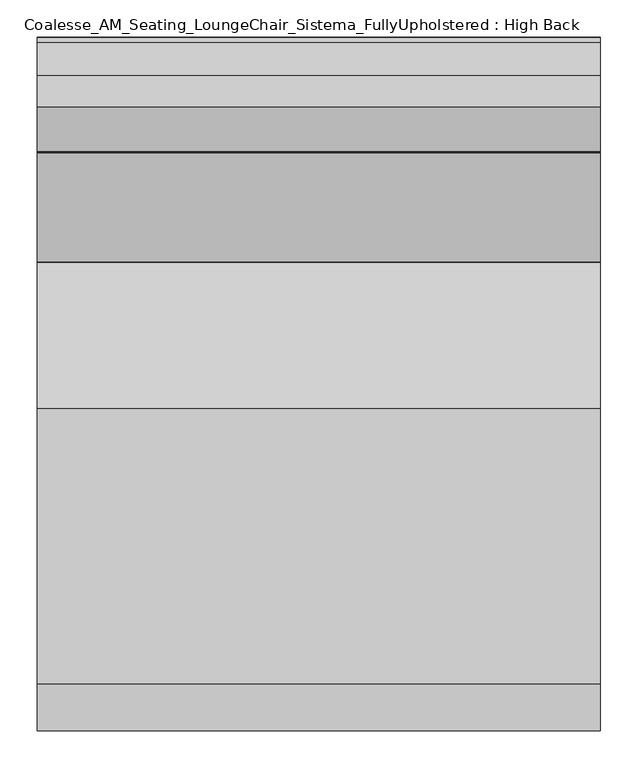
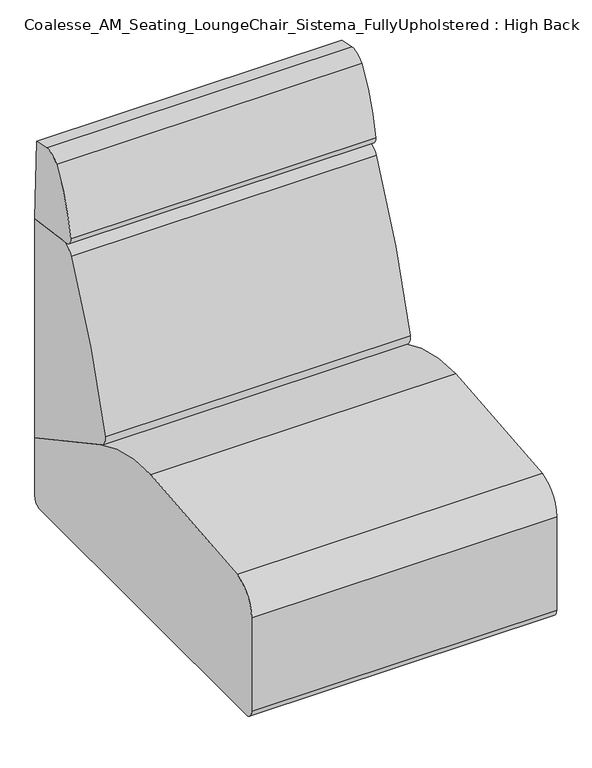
"""IFC4 building model written with IfcOpenShell, lengths in millimetres: furniture geometry, Coalesse_AM_Seating_LoungeChair_Sistema_FullyUpholstered : High Back."""

from ifc_helpers import new_model, si_unit, point, frame, frame_2d, origin, place, context, project, spatial, polyline, circle_curve, ellipse_curve, trimmed, segment, composite_curve, outline, extrude, source, transform, mapped, element, save
from ifc_brep_helpers import plane_surface, cylinder_surface, revolved_surface, advanced_brep


def coalesse_am_seating_loungechair_sistema_fullyupholstered_6787f364(model_context):
    return source(origin(), model_context, "Body", "SolidModel", [
        advanced_brep(
        [(-269.1276038, 379.5141881, 32.0111214), (-305.4012134, 379.5141881, 32.0111214), (-305.4012134, 379.5141881, 16.5557542), (-269.1276038, 379.5141881, 16.5557542), (-306.6948939, 379.5141881, 14.0167632), (-267.8339233, 379.5141881, 14.0167632), (-311.0668802, 379.5141881, 10.8824382), (-263.4619371, 379.5141881, 10.8824382), (-312.2530965, 379.5141881, 8.4680454), (-262.2757207, 379.5141881, 8.4680454), (-312.2530965, 379.5141881, 3.1081764), (-262.2757207, 379.5141881, 3.1081764), (-308.6567219, 379.5141881, 0.0), (-265.8720953, 379.5141881, 0.0), (-287.2644086, 379.5141881, 0.0), (-287.2644086, 379.5141881, 34.4679682), (-294.3791876, 379.5141881, 34.4679682), (-280.1496296, 379.5141881, 34.4679682), (-294.3791876, 379.5141881, 32.0111214), (-280.1496296, 379.5141881, 32.0111214)],
        [
            (0, 1, circle_curve(frame((-287.2644086, 379.5141881, 32.0111214), z_axis=(0.0, 0.0, -1.0), x_axis=(-1.0, 0.0, 0.0)), 18.1368048)),
            (1, 2),
            (2, 3, circle_curve(frame((-287.2644086, 379.5141881, 16.5557542), z_axis=(0.0, 0.0, 1.0), x_axis=(-1.0, 0.0, 0.0)), 18.1368048)),
            (3, 0),
            (1, 0, circle_curve(frame((-287.2644086, 379.5141881, 32.0111214), z_axis=(0.0, 0.0, -1.0), x_axis=(-1.0, 0.0, 0.0)), 18.1368048)),
            (3, 2, circle_curve(frame((-287.2644086, 379.5141881, 16.5557542), z_axis=(0.0, 0.0, 1.0), x_axis=(-1.0, 0.0, 0.0)), 18.1368048)),
            (2, 4),
            (4, 5, circle_curve(frame((-287.2644086, 379.5141881, 14.0167632), z_axis=(0.0, 0.0, 1.0), x_axis=(-1.0, 0.0, 0.0)), 19.4304853)),
            (5, 3),
            (5, 4, circle_curve(frame((-287.2644086, 379.5141881, 14.0167632), z_axis=(0.0, 0.0, 1.0), x_axis=(-1.0, 0.0, 0.0)), 19.4304853)),
            (4, 6, circle_curve(frame((-264.7129236, 379.5141881, -49.1591113), z_axis=(0.0, -1.0, 0.0), x_axis=(1.0, 0.0, 0.0)), 75.8529957)),
            (6, 7, circle_curve(frame((-287.2644086, 379.5141881, 10.8824382), z_axis=(0.0, 0.0, 1.0), x_axis=(-1.0, 0.0, 0.0)), 23.8024715)),
            (7, 5, circle_curve(frame((-309.8158936, 379.5141881, -49.1591113), z_axis=(0.0, -1.0, 0.0), x_axis=(-1.0, 0.0, 0.0)), 75.8529957)),
            (7, 6, circle_curve(frame((-287.2644086, 379.5141881, 10.8824382), z_axis=(0.0, 0.0, 1.0), x_axis=(-1.0, 0.0, 0.0)), 23.8024715)),
            (6, 8, circle_curve(frame((-309.2028933, 379.5141881, 8.4680454), z_axis=(0.0, -1.0, 0.0), x_axis=(1.0, 0.0, 0.0)), 3.0502032)),
            (8, 9, circle_curve(frame((-287.2644086, 379.5141881, 8.4680454), z_axis=(0.0, 0.0, 1.0), x_axis=(-1.0, 0.0, 0.0)), 24.9886879)),
            (9, 7, circle_curve(frame((-265.3259239, 379.5141881, 8.4680454), z_axis=(0.0, -1.0, 0.0), x_axis=(-1.0, 0.0, 0.0)), 3.0502032)),
            (9, 8, circle_curve(frame((-287.2644086, 379.5141881, 8.4680454), z_axis=(0.0, 0.0, 1.0), x_axis=(-1.0, 0.0, 0.0)), 24.9886879)),
            (8, 10),
            (10, 11, circle_curve(frame((-287.2644086, 379.5141881, 3.1081764), z_axis=(0.0, 0.0, 1.0), x_axis=(-1.0, 0.0, 0.0)), 24.9886879)),
            (11, 9),
            (11, 10, circle_curve(frame((-287.2644086, 379.5141881, 3.1081764), z_axis=(0.0, 0.0, 1.0), x_axis=(-1.0, 0.0, 0.0)), 24.9886879)),
            (10, 12, circle_curve(frame((-308.6567219, 379.5141881, 3.634715), z_axis=(0.0, -1.0, 0.0), x_axis=(1.0, 0.0, 0.0)), 3.634715)),
            (12, 13, circle_curve(frame((-287.2644086, 379.5141881, 0.0), z_axis=(0.0, 0.0, 1.0), x_axis=(-1.0, 0.0, 0.0)), 21.3923133)),
            (13, 11, circle_curve(frame((-265.8720953, 379.5141881, 3.634715), z_axis=(0.0, -1.0, 0.0), x_axis=(-1.0, 0.0, 0.0)), 3.634715)),
            (13, 12, circle_curve(frame((-287.2644086, 379.5141881, 0.0), z_axis=(0.0, 0.0, 1.0), x_axis=(-1.0, 0.0, 0.0)), 21.3923133)),
            (12, 14),
            (14, 13),
            (15, 16),
            (16, 17, circle_curve(frame((-287.2644086, 379.5141881, 34.4679682), z_axis=(0.0, 0.0, 1.0), x_axis=(-1.0, 0.0, 0.0)), 7.114779)),
            (17, 15),
            (17, 16, circle_curve(frame((-287.2644086, 379.5141881, 34.4679682), z_axis=(0.0, 0.0, 1.0), x_axis=(-1.0, 0.0, 0.0)), 7.114779)),
            (16, 18),
            (18, 19, circle_curve(frame((-287.2644086, 379.5141881, 32.0111214), z_axis=(0.0, 0.0, 1.0), x_axis=(-1.0, 0.0, 0.0)), 7.114779)),
            (19, 17),
            (19, 18, circle_curve(frame((-287.2644086, 379.5141881, 32.0111214), z_axis=(0.0, 0.0, 1.0), x_axis=(-1.0, 0.0, 0.0)), 7.114779)),
            (18, 1),
            (0, 19),
        ],
        [
            cylinder_surface(frame((-287.2644086, 379.5141881, 22.0491407), z_axis=(0.0, 0.0, 1.0), x_axis=(-1.0, 0.0, 0.0)), 18.1368048),
            revolved_surface(polyline([(-306.6948939, 379.5141881, 14.0167632), (-305.4012134, 379.5141881, 16.5557542)]), (-287.2644086, 379.5141881, 22.0491407), (0.0, 0.0, 1.0)),
            revolved_surface(trimmed(ellipse_curve(frame((-264.7129236, 379.5141881, -49.1591113), z_axis=(0.0, 1.0, 0.0), x_axis=(1.0, 0.0, 0.0)), 75.8529957, 75.8529957), [point((-311.0668802, 379.5141881, 10.8824382))], [point((-306.6948939, 379.5141881, 14.0167632))], True, "CARTESIAN"), (-287.2644086, 379.5141881, 22.0491407), (0.0, 0.0, 1.0)),
            revolved_surface(trimmed(ellipse_curve(frame((-309.2028933, 379.5141881, 8.4680454), z_axis=(0.0, 1.0, 0.0), x_axis=(1.0, 0.0, 0.0)), 3.0502032, 3.0502032), [point((-312.2530965, 379.5141881, 8.4680454))], [point((-311.0668802, 379.5141881, 10.8824382))], True, "CARTESIAN"), (-287.2644086, 379.5141881, 22.0491407), (0.0, 0.0, 1.0)),
            cylinder_surface(frame((-287.2644086, 379.5141881, 22.0491407), z_axis=(0.0, 0.0, 1.0), x_axis=(-1.0, 0.0, 0.0)), 24.9886879),
            revolved_surface(trimmed(ellipse_curve(frame((-308.6567219, 379.5141881, 3.634715), z_axis=(0.0, 1.0, 0.0), x_axis=(1.0, 0.0, 0.0)), 3.634715, 3.634715), [point((-308.6567219, 379.5141881, 0.0))], [point((-312.2530965, 379.5141881, 3.1081764))], True, "CARTESIAN"), (-287.2644086, 379.5141881, 22.0491407), (0.0, 0.0, 1.0)),
            plane_surface(frame((-287.2644086, 379.5141881, 0.0), z_axis=(0.0, 0.0, -1.0), x_axis=(-1.0, 0.0, 0.0))),
            plane_surface(frame((-287.2644086, 379.5141881, 34.4679682), z_axis=(0.0, 0.0, 1.0), x_axis=(-1.0, 0.0, 0.0))),
            cylinder_surface(frame((-287.2644086, 379.5141881, 22.0491407), z_axis=(0.0, 0.0, 1.0), x_axis=(-1.0, 0.0, 0.0)), 7.114779),
            plane_surface(frame((-287.2644086, 379.5141881, 32.0111214), z_axis=(0.0, 0.0, 1.0), x_axis=(-1.0, 0.0, 0.0))),
        ],
        [
            (0, [[1, 2, 3, 4]]),
            (0, [[5, -4, 6, -2]]),
            (1, [[-3, 7, 8, 9]]),
            (1, [[-6, -9, 10, -7]]),
            (2, [[-8, 11, 12, 13]]),
            (2, [[-10, -13, 14, -11]]),
            (3, [[-12, 15, 16, 17]]),
            (3, [[-14, -17, 18, -15]]),
            (4, [[-16, 19, 20, 21]]),
            (4, [[-18, -21, 22, -19]]),
            (5, [[-20, 23, 24, 25]]),
            (5, [[-22, -25, 26, -23]]),
            (6, [[-24, 27, 28]]),
            (6, [[-26, -28, -27]]),
            (7, [[29, 30, 31]]),
            (7, [[-31, 32, -29]]),
            (8, [[-30, 33, 34, 35]]),
            (8, [[-32, -35, 36, -33]]),
            (9, [[-34, 37, -1, 38]]),
            (9, [[-36, -38, -5, -37]]),
        ],
    ),
        advanced_brep(
        [(269.1276038, 379.5141881, 16.5557542), (305.4012134, 379.5141881, 16.5557542), (305.4012134, 379.5141881, 32.0111214), (269.1276038, 379.5141881, 32.0111214), (267.8339233, 379.5141881, 14.0167632), (306.6948939, 379.5141881, 14.0167632), (263.4619371, 379.5141881, 10.8824382), (311.0668802, 379.5141881, 10.8824382), (262.2757207, 379.5141881, 8.4680454), (312.2530965, 379.5141881, 8.4680454), (262.2757207, 379.5141881, 3.1081764), (312.2530965, 379.5141881, 3.1081764), (265.8720953, 379.5141881, 0.0), (308.6567219, 379.5141881, 0.0), (287.2644086, 379.5141881, 0.0), (280.1496296, 379.5141881, 34.4679682), (294.3791876, 379.5141881, 34.4679682), (287.2644086, 379.5141881, 34.4679682), (280.1496296, 379.5141881, 32.0111214), (294.3791876, 379.5141881, 32.0111214)],
        [
            (0, 1, circle_curve(frame((287.2644086, 379.5141881, 16.5557542), z_axis=(0.0, 0.0, 1.0), x_axis=(1.0, 0.0, 0.0)), 18.1368048)),
            (1, 2),
            (2, 3, circle_curve(frame((287.2644086, 379.5141881, 32.0111214), z_axis=(0.0, 0.0, -1.0), x_axis=(1.0, 0.0, 0.0)), 18.1368048)),
            (3, 0),
            (1, 0, circle_curve(frame((287.2644086, 379.5141881, 16.5557542), z_axis=(0.0, 0.0, 1.0), x_axis=(1.0, 0.0, 0.0)), 18.1368048)),
            (3, 2, circle_curve(frame((287.2644086, 379.5141881, 32.0111214), z_axis=(0.0, 0.0, -1.0), x_axis=(1.0, 0.0, 0.0)), 18.1368048)),
            (4, 5, circle_curve(frame((287.2644086, 379.5141881, 14.0167632), z_axis=(0.0, 0.0, 1.0), x_axis=(1.0, 0.0, 0.0)), 19.4304853)),
            (5, 1),
            (0, 4),
            (5, 4, circle_curve(frame((287.2644086, 379.5141881, 14.0167632), z_axis=(0.0, 0.0, 1.0), x_axis=(1.0, 0.0, 0.0)), 19.4304853)),
            (6, 7, circle_curve(frame((287.2644086, 379.5141881, 10.8824382), z_axis=(0.0, 0.0, 1.0), x_axis=(1.0, 0.0, 0.0)), 23.8024715)),
            (7, 5, circle_curve(frame((264.7129236, 379.5141881, -49.1591113), z_axis=(0.0, -1.0, 0.0), x_axis=(-1.0, 0.0, 0.0)), 75.8529957)),
            (4, 6, circle_curve(frame((309.8158936, 379.5141881, -49.1591113), z_axis=(0.0, -1.0, 0.0), x_axis=(1.0, 0.0, 0.0)), 75.8529957)),
            (7, 6, circle_curve(frame((287.2644086, 379.5141881, 10.8824382), z_axis=(0.0, 0.0, 1.0), x_axis=(1.0, 0.0, 0.0)), 23.8024715)),
            (8, 9, circle_curve(frame((287.2644086, 379.5141881, 8.4680454), z_axis=(0.0, 0.0, 1.0), x_axis=(1.0, 0.0, 0.0)), 24.9886879)),
            (9, 7, circle_curve(frame((309.2028933, 379.5141881, 8.4680454), z_axis=(0.0, -1.0, 0.0), x_axis=(-1.0, 0.0, 0.0)), 3.0502032)),
            (6, 8, circle_curve(frame((265.3259239, 379.5141881, 8.4680454), z_axis=(0.0, -1.0, 0.0), x_axis=(1.0, 0.0, 0.0)), 3.0502032)),
            (9, 8, circle_curve(frame((287.2644086, 379.5141881, 8.4680454), z_axis=(0.0, 0.0, 1.0), x_axis=(1.0, 0.0, 0.0)), 24.9886879)),
            (10, 11, circle_curve(frame((287.2644086, 379.5141881, 3.1081764), z_axis=(0.0, 0.0, 1.0), x_axis=(1.0, 0.0, 0.0)), 24.9886879)),
            (11, 9),
            (8, 10),
            (11, 10, circle_curve(frame((287.2644086, 379.5141881, 3.1081764), z_axis=(0.0, 0.0, 1.0), x_axis=(1.0, 0.0, 0.0)), 24.9886879)),
            (12, 13, circle_curve(frame((287.2644086, 379.5141881, 0.0), z_axis=(0.0, 0.0, 1.0), x_axis=(1.0, 0.0, 0.0)), 21.3923133)),
            (13, 11, circle_curve(frame((308.6567219, 379.5141881, 3.634715), z_axis=(0.0, -1.0, 0.0), x_axis=(-1.0, 0.0, 0.0)), 3.634715)),
            (10, 12, circle_curve(frame((265.8720953, 379.5141881, 3.634715), z_axis=(0.0, -1.0, 0.0), x_axis=(1.0, 0.0, 0.0)), 3.634715)),
            (13, 12, circle_curve(frame((287.2644086, 379.5141881, 0.0), z_axis=(0.0, 0.0, 1.0), x_axis=(1.0, 0.0, 0.0)), 21.3923133)),
            (14, 13),
            (12, 14),
            (15, 16, circle_curve(frame((287.2644086, 379.5141881, 34.4679682), z_axis=(0.0, 0.0, 1.0), x_axis=(1.0, 0.0, 0.0)), 7.114779)),
            (16, 17),
            (17, 15),
            (16, 15, circle_curve(frame((287.2644086, 379.5141881, 34.4679682), z_axis=(0.0, 0.0, 1.0), x_axis=(1.0, 0.0, 0.0)), 7.114779)),
            (18, 19, circle_curve(frame((287.2644086, 379.5141881, 32.0111214), z_axis=(0.0, 0.0, 1.0), x_axis=(1.0, 0.0, 0.0)), 7.114779)),
            (19, 16),
            (15, 18),
            (19, 18, circle_curve(frame((287.2644086, 379.5141881, 32.0111214), z_axis=(0.0, 0.0, 1.0), x_axis=(1.0, 0.0, 0.0)), 7.114779)),
            (2, 19),
            (18, 3),
        ],
        [
            cylinder_surface(frame((287.2644086, 379.5141881, 22.0491407), z_axis=(0.0, 0.0, -1.0), x_axis=(1.0, 0.0, 0.0)), 18.1368048),
            revolved_surface(polyline([(305.4012134, 379.5141881, 16.5557542), (306.6948939, 379.5141881, 14.0167632)]), (287.2644086, 379.5141881, 22.0491407), (0.0, 0.0, -1.0)),
            revolved_surface(trimmed(ellipse_curve(frame((264.7129236, 379.5141881, -49.1591113), z_axis=(0.0, 1.0, 0.0), x_axis=(-1.0, 0.0, 0.0)), 75.8529957, 75.8529957), [point((306.6948939, 379.5141881, 14.0167632))], [point((311.0668802, 379.5141881, 10.8824382))], True, "CARTESIAN"), (287.2644086, 379.5141881, 22.0491407), (0.0, 0.0, -1.0)),
            revolved_surface(trimmed(ellipse_curve(frame((309.2028933, 379.5141881, 8.4680454), z_axis=(0.0, 1.0, 0.0), x_axis=(-1.0, 0.0, 0.0)), 3.0502032, 3.0502032), [point((311.0668802, 379.5141881, 10.8824382))], [point((312.2530965, 379.5141881, 8.4680454))], True, "CARTESIAN"), (287.2644086, 379.5141881, 22.0491407), (0.0, 0.0, -1.0)),
            cylinder_surface(frame((287.2644086, 379.5141881, 22.0491407), z_axis=(0.0, 0.0, -1.0), x_axis=(1.0, 0.0, 0.0)), 24.9886879),
            revolved_surface(trimmed(ellipse_curve(frame((308.6567219, 379.5141881, 3.634715), z_axis=(0.0, 1.0, 0.0), x_axis=(-1.0, 0.0, 0.0)), 3.634715, 3.634715), [point((312.2530965, 379.5141881, 3.1081764))], [point((308.6567219, 379.5141881, 0.0))], True, "CARTESIAN"), (287.2644086, 379.5141881, 22.0491407), (0.0, 0.0, -1.0)),
            plane_surface(frame((287.2644086, 379.5141881, 0.0), z_axis=(0.0, 0.0, -1.0), x_axis=(1.0, 0.0, 0.0))),
            plane_surface(frame((287.2644086, 379.5141881, 34.4679682), z_axis=(0.0, 0.0, 1.0), x_axis=(1.0, 0.0, 0.0))),
            cylinder_surface(frame((287.2644086, 379.5141881, 22.0491407), z_axis=(0.0, 0.0, -1.0), x_axis=(1.0, 0.0, 0.0)), 7.114779),
            plane_surface(frame((287.2644086, 379.5141881, 32.0111214), z_axis=(0.0, 0.0, 1.0), x_axis=(1.0, 0.0, 0.0))),
        ],
        [
            (0, [[1, 2, 3, 4]]),
            (0, [[5, -4, 6, -2]]),
            (1, [[7, 8, -1, 9]]),
            (1, [[10, -9, -5, -8]]),
            (2, [[11, 12, -7, 13]]),
            (2, [[14, -13, -10, -12]]),
            (3, [[15, 16, -11, 17]]),
            (3, [[18, -17, -14, -16]]),
            (4, [[19, 20, -15, 21]]),
            (4, [[22, -21, -18, -20]]),
            (5, [[23, 24, -19, 25]]),
            (5, [[26, -25, -22, -24]]),
            (6, [[27, -23, 28]]),
            (6, [[-28, -26, -27]]),
            (7, [[29, 30, 31]]),
            (7, [[32, -31, -30]]),
            (8, [[33, 34, -29, 35]]),
            (8, [[36, -35, -32, -34]]),
            (9, [[-3, 37, -33, 38]]),
            (9, [[-6, -38, -36, -37]]),
        ],
    ),
        advanced_brep(
        [(269.1276038, -379.5141881, 32.0111214), (305.4012134, -379.5141881, 32.0111214), (305.4012134, -379.5141881, 16.5557542), (269.1276038, -379.5141881, 16.5557542), (306.6948939, -379.5141881, 14.0167632), (267.8339233, -379.5141881, 14.0167632), (311.0668802, -379.5141881, 10.8824382), (263.4619371, -379.5141881, 10.8824382), (312.2530965, -379.5141881, 8.4680454), (262.2757207, -379.5141881, 8.4680454), (312.2530965, -379.5141881, 3.1081764), (262.2757207, -379.5141881, 3.1081764), (308.6567219, -379.5141881, 0.0), (265.8720953, -379.5141881, 0.0), (287.2644086, -379.5141881, 0.0), (287.2644086, -379.5141881, 34.4679682), (294.3791876, -379.5141881, 34.4679682), (280.1496296, -379.5141881, 34.4679682), (294.3791876, -379.5141881, 32.0111214), (280.1496296, -379.5141881, 32.0111214)],
        [
            (0, 1, circle_curve(frame((287.2644086, -379.5141881, 32.0111214), z_axis=(0.0, 0.0, -1.0), x_axis=(1.0, 0.0, 0.0)), 18.1368048)),
            (1, 2),
            (2, 3, circle_curve(frame((287.2644086, -379.5141881, 16.5557542), z_axis=(0.0, 0.0, 1.0), x_axis=(1.0, 0.0, 0.0)), 18.1368048)),
            (3, 0),
            (1, 0, circle_curve(frame((287.2644086, -379.5141881, 32.0111214), z_axis=(0.0, 0.0, -1.0), x_axis=(1.0, 0.0, 0.0)), 18.1368048)),
            (3, 2, circle_curve(frame((287.2644086, -379.5141881, 16.5557542), z_axis=(0.0, 0.0, 1.0), x_axis=(1.0, 0.0, 0.0)), 18.1368048)),
            (2, 4),
            (4, 5, circle_curve(frame((287.2644086, -379.5141881, 14.0167632), z_axis=(0.0, 0.0, 1.0), x_axis=(1.0, 0.0, 0.0)), 19.4304853)),
            (5, 3),
            (5, 4, circle_curve(frame((287.2644086, -379.5141881, 14.0167632), z_axis=(0.0, 0.0, 1.0), x_axis=(1.0, 0.0, 0.0)), 19.4304853)),
            (4, 6, circle_curve(frame((264.7129236, -379.5141881, -49.1591113), z_axis=(0.0, 1.0, 0.0), x_axis=(-1.0, 0.0, 0.0)), 75.8529957)),
            (6, 7, circle_curve(frame((287.2644086, -379.5141881, 10.8824382), z_axis=(0.0, 0.0, 1.0), x_axis=(1.0, 0.0, 0.0)), 23.8024715)),
            (7, 5, circle_curve(frame((309.8158936, -379.5141881, -49.1591113), z_axis=(0.0, 1.0, 0.0), x_axis=(1.0, 0.0, 0.0)), 75.8529957)),
            (7, 6, circle_curve(frame((287.2644086, -379.5141881, 10.8824382), z_axis=(0.0, 0.0, 1.0), x_axis=(1.0, 0.0, 0.0)), 23.8024715)),
            (6, 8, circle_curve(frame((309.2028933, -379.5141881, 8.4680454), z_axis=(0.0, 1.0, 0.0), x_axis=(-1.0, 0.0, 0.0)), 3.0502032)),
            (8, 9, circle_curve(frame((287.2644086, -379.5141881, 8.4680454), z_axis=(0.0, 0.0, 1.0), x_axis=(1.0, 0.0, 0.0)), 24.9886879)),
            (9, 7, circle_curve(frame((265.3259239, -379.5141881, 8.4680454), z_axis=(0.0, 1.0, 0.0), x_axis=(1.0, 0.0, 0.0)), 3.0502032)),
            (9, 8, circle_curve(frame((287.2644086, -379.5141881, 8.4680454), z_axis=(0.0, 0.0, 1.0), x_axis=(1.0, 0.0, 0.0)), 24.9886879)),
            (8, 10),
            (10, 11, circle_curve(frame((287.2644086, -379.5141881, 3.1081764), z_axis=(0.0, 0.0, 1.0), x_axis=(1.0, 0.0, 0.0)), 24.9886879)),
            (11, 9),
            (11, 10, circle_curve(frame((287.2644086, -379.5141881, 3.1081764), z_axis=(0.0, 0.0, 1.0), x_axis=(1.0, 0.0, 0.0)), 24.9886879)),
            (10, 12, circle_curve(frame((308.6567219, -379.5141881, 3.634715), z_axis=(0.0, 1.0, 0.0), x_axis=(-1.0, 0.0, 0.0)), 3.634715)),
            (12, 13, circle_curve(frame((287.2644086, -379.5141881, 0.0), z_axis=(0.0, 0.0, 1.0), x_axis=(1.0, 0.0, 0.0)), 21.3923133)),
            (13, 11, circle_curve(frame((265.8720953, -379.5141881, 3.634715), z_axis=(0.0, 1.0, 0.0), x_axis=(1.0, 0.0, 0.0)), 3.634715)),
            (13, 12, circle_curve(frame((287.2644086, -379.5141881, 0.0), z_axis=(0.0, 0.0, 1.0), x_axis=(1.0, 0.0, 0.0)), 21.3923133)),
            (12, 14),
            (14, 13),
            (15, 16),
            (16, 17, circle_curve(frame((287.2644086, -379.5141881, 34.4679682), z_axis=(0.0, 0.0, 1.0), x_axis=(1.0, 0.0, 0.0)), 7.114779)),
            (17, 15),
            (17, 16, circle_curve(frame((287.2644086, -379.5141881, 34.4679682), z_axis=(0.0, 0.0, 1.0), x_axis=(1.0, 0.0, 0.0)), 7.114779)),
            (16, 18),
            (18, 19, circle_curve(frame((287.2644086, -379.5141881, 32.0111214), z_axis=(0.0, 0.0, 1.0), x_axis=(1.0, 0.0, 0.0)), 7.114779)),
            (19, 17),
            (19, 18, circle_curve(frame((287.2644086, -379.5141881, 32.0111214), z_axis=(0.0, 0.0, 1.0), x_axis=(1.0, 0.0, 0.0)), 7.114779)),
            (18, 1),
            (0, 19),
        ],
        [
            cylinder_surface(frame((287.2644086, -379.5141881, 22.0491407), z_axis=(0.0, 0.0, 1.0), x_axis=(1.0, 0.0, 0.0)), 18.1368048),
            revolved_surface(polyline([(306.6948939, -379.5141881, 14.0167632), (305.4012134, -379.5141881, 16.5557542)]), (287.2644086, -379.5141881, 22.0491407), (0.0, 0.0, 1.0)),
            revolved_surface(trimmed(ellipse_curve(frame((264.7129236, -379.5141881, -49.1591113), z_axis=(0.0, -1.0, 0.0), x_axis=(-1.0, 0.0, 0.0)), 75.8529957, 75.8529957), [point((311.0668802, -379.5141881, 10.8824382))], [point((306.6948939, -379.5141881, 14.0167632))], True, "CARTESIAN"), (287.2644086, -379.5141881, 22.0491407), (0.0, 0.0, 1.0)),
            revolved_surface(trimmed(ellipse_curve(frame((309.2028933, -379.5141881, 8.4680454), z_axis=(0.0, -1.0, 0.0), x_axis=(-1.0, 0.0, 0.0)), 3.0502032, 3.0502032), [point((312.2530965, -379.5141881, 8.4680454))], [point((311.0668802, -379.5141881, 10.8824382))], True, "CARTESIAN"), (287.2644086, -379.5141881, 22.0491407), (0.0, 0.0, 1.0)),
            cylinder_surface(frame((287.2644086, -379.5141881, 22.0491407), z_axis=(0.0, 0.0, 1.0), x_axis=(1.0, 0.0, 0.0)), 24.9886879),
            revolved_surface(trimmed(ellipse_curve(frame((308.6567219, -379.5141881, 3.634715), z_axis=(0.0, -1.0, 0.0), x_axis=(-1.0, 0.0, 0.0)), 3.634715, 3.634715), [point((308.6567219, -379.5141881, 0.0))], [point((312.2530965, -379.5141881, 3.1081764))], True, "CARTESIAN"), (287.2644086, -379.5141881, 22.0491407), (0.0, 0.0, 1.0)),
            plane_surface(frame((287.2644086, -379.5141881, 0.0), z_axis=(0.0, 0.0, -1.0), x_axis=(1.0, 0.0, 0.0))),
            plane_surface(frame((287.2644086, -379.5141881, 34.4679682), z_axis=(0.0, 0.0, 1.0), x_axis=(1.0, 0.0, 0.0))),
            cylinder_surface(frame((287.2644086, -379.5141881, 22.0491407), z_axis=(0.0, 0.0, 1.0), x_axis=(1.0, 0.0, 0.0)), 7.114779),
            plane_surface(frame((287.2644086, -379.5141881, 32.0111214), z_axis=(0.0, 0.0, 1.0), x_axis=(1.0, 0.0, 0.0))),
        ],
        [
            (0, [[1, 2, 3, 4]]),
            (0, [[5, -4, 6, -2]]),
            (1, [[-3, 7, 8, 9]]),
            (1, [[-6, -9, 10, -7]]),
            (2, [[-8, 11, 12, 13]]),
            (2, [[-10, -13, 14, -11]]),
            (3, [[-12, 15, 16, 17]]),
            (3, [[-14, -17, 18, -15]]),
            (4, [[-16, 19, 20, 21]]),
            (4, [[-18, -21, 22, -19]]),
            (5, [[-20, 23, 24, 25]]),
            (5, [[-22, -25, 26, -23]]),
            (6, [[-24, 27, 28]]),
            (6, [[-26, -28, -27]]),
            (7, [[29, 30, 31]]),
            (7, [[-31, 32, -29]]),
            (8, [[-30, 33, 34, 35]]),
            (8, [[-32, -35, 36, -33]]),
            (9, [[-34, 37, -1, 38]]),
            (9, [[-36, -38, -5, -37]]),
        ],
    ),
        advanced_brep(
        [(-269.1276038, -379.5141881, 16.5557542), (-305.4012134, -379.5141881, 16.5557542), (-305.4012134, -379.5141881, 32.0111214), (-269.1276038, -379.5141881, 32.0111214), (-267.8339233, -379.5141881, 14.0167632), (-306.6948939, -379.5141881, 14.0167632), (-263.4619371, -379.5141881, 10.8824382), (-311.0668802, -379.5141881, 10.8824382), (-262.2757207, -379.5141881, 8.4680454), (-312.2530965, -379.5141881, 8.4680454), (-262.2757207, -379.5141881, 3.1081764), (-312.2530965, -379.5141881, 3.1081764), (-265.8720953, -379.5141881, 0.0), (-308.6567219, -379.5141881, 0.0), (-287.2644086, -379.5141881, 0.0), (-280.1496296, -379.5141881, 34.4679682), (-294.3791876, -379.5141881, 34.4679682), (-287.2644086, -379.5141881, 34.4679682), (-280.1496296, -379.5141881, 32.0111214), (-294.3791876, -379.5141881, 32.0111214)],
        [
            (0, 1, circle_curve(frame((-287.2644086, -379.5141881, 16.5557542), z_axis=(0.0, 0.0, 1.0), x_axis=(-1.0, 0.0, 0.0)), 18.1368048)),
            (1, 2),
            (2, 3, circle_curve(frame((-287.2644086, -379.5141881, 32.0111214), z_axis=(0.0, 0.0, -1.0), x_axis=(-1.0, 0.0, 0.0)), 18.1368048)),
            (3, 0),
            (1, 0, circle_curve(frame((-287.2644086, -379.5141881, 16.5557542), z_axis=(0.0, 0.0, 1.0), x_axis=(-1.0, 0.0, 0.0)), 18.1368048)),
            (3, 2, circle_curve(frame((-287.2644086, -379.5141881, 32.0111214), z_axis=(0.0, 0.0, -1.0), x_axis=(-1.0, 0.0, 0.0)), 18.1368048)),
            (4, 5, circle_curve(frame((-287.2644086, -379.5141881, 14.0167632), z_axis=(0.0, 0.0, 1.0), x_axis=(-1.0, 0.0, 0.0)), 19.4304853)),
            (5, 1),
            (0, 4),
            (5, 4, circle_curve(frame((-287.2644086, -379.5141881, 14.0167632), z_axis=(0.0, 0.0, 1.0), x_axis=(-1.0, 0.0, 0.0)), 19.4304853)),
            (6, 7, circle_curve(frame((-287.2644086, -379.5141881, 10.8824382), z_axis=(0.0, 0.0, 1.0), x_axis=(-1.0, 0.0, 0.0)), 23.8024715)),
            (7, 5, circle_curve(frame((-264.7129236, -379.5141881, -49.1591113), z_axis=(0.0, 1.0, 0.0), x_axis=(1.0, 0.0, 0.0)), 75.8529957)),
            (4, 6, circle_curve(frame((-309.8158936, -379.5141881, -49.1591113), z_axis=(0.0, 1.0, 0.0), x_axis=(-1.0, 0.0, 0.0)), 75.8529957)),
            (7, 6, circle_curve(frame((-287.2644086, -379.5141881, 10.8824382), z_axis=(0.0, 0.0, 1.0), x_axis=(-1.0, 0.0, 0.0)), 23.8024715)),
            (8, 9, circle_curve(frame((-287.2644086, -379.5141881, 8.4680454), z_axis=(0.0, 0.0, 1.0), x_axis=(-1.0, 0.0, 0.0)), 24.9886879)),
            (9, 7, circle_curve(frame((-309.2028933, -379.5141881, 8.4680454), z_axis=(0.0, 1.0, 0.0), x_axis=(1.0, 0.0, 0.0)), 3.0502032)),
            (6, 8, circle_curve(frame((-265.3259239, -379.5141881, 8.4680454), z_axis=(0.0, 1.0, 0.0), x_axis=(-1.0, 0.0, 0.0)), 3.0502032)),
            (9, 8, circle_curve(frame((-287.2644086, -379.5141881, 8.4680454), z_axis=(0.0, 0.0, 1.0), x_axis=(-1.0, 0.0, 0.0)), 24.9886879)),
            (10, 11, circle_curve(frame((-287.2644086, -379.5141881, 3.1081764), z_axis=(0.0, 0.0, 1.0), x_axis=(-1.0, 0.0, 0.0)), 24.9886879)),
            (11, 9),
            (8, 10),
            (11, 10, circle_curve(frame((-287.2644086, -379.5141881, 3.1081764), z_axis=(0.0, 0.0, 1.0), x_axis=(-1.0, 0.0, 0.0)), 24.9886879)),
            (12, 13, circle_curve(frame((-287.2644086, -379.5141881, 0.0), z_axis=(0.0, 0.0, 1.0), x_axis=(-1.0, 0.0, 0.0)), 21.3923133)),
            (13, 11, circle_curve(frame((-308.6567219, -379.5141881, 3.634715), z_axis=(0.0, 1.0, 0.0), x_axis=(1.0, 0.0, 0.0)), 3.634715)),
            (10, 12, circle_curve(frame((-265.8720953, -379.5141881, 3.634715), z_axis=(0.0, 1.0, 0.0), x_axis=(-1.0, 0.0, 0.0)), 3.634715)),
            (13, 12, circle_curve(frame((-287.2644086, -379.5141881, 0.0), z_axis=(0.0, 0.0, 1.0), x_axis=(-1.0, 0.0, 0.0)), 21.3923133)),
            (14, 13),
            (12, 14),
            (15, 16, circle_curve(frame((-287.2644086, -379.5141881, 34.4679682), z_axis=(0.0, 0.0, 1.0), x_axis=(-1.0, 0.0, 0.0)), 7.114779)),
            (16, 17),
            (17, 15),
            (16, 15, circle_curve(frame((-287.2644086, -379.5141881, 34.4679682), z_axis=(0.0, 0.0, 1.0), x_axis=(-1.0, 0.0, 0.0)), 7.114779)),
            (18, 19, circle_curve(frame((-287.2644086, -379.5141881, 32.0111214), z_axis=(0.0, 0.0, 1.0), x_axis=(-1.0, 0.0, 0.0)), 7.114779)),
            (19, 16),
            (15, 18),
            (19, 18, circle_curve(frame((-287.2644086, -379.5141881, 32.0111214), z_axis=(0.0, 0.0, 1.0), x_axis=(-1.0, 0.0, 0.0)), 7.114779)),
            (2, 19),
            (18, 3),
        ],
        [
            cylinder_surface(frame((-287.2644086, -379.5141881, 22.0491407), z_axis=(0.0, 0.0, -1.0), x_axis=(-1.0, 0.0, 0.0)), 18.1368048),
            revolved_surface(polyline([(-305.4012134, -379.5141881, 16.5557542), (-306.6948939, -379.5141881, 14.0167632)]), (-287.2644086, -379.5141881, 22.0491407), (0.0, 0.0, -1.0)),
            revolved_surface(trimmed(ellipse_curve(frame((-264.7129236, -379.5141881, -49.1591113), z_axis=(0.0, -1.0, 0.0), x_axis=(1.0, 0.0, 0.0)), 75.8529957, 75.8529957), [point((-306.6948939, -379.5141881, 14.0167632))], [point((-311.0668802, -379.5141881, 10.8824382))], True, "CARTESIAN"), (-287.2644086, -379.5141881, 22.0491407), (0.0, 0.0, -1.0)),
            revolved_surface(trimmed(ellipse_curve(frame((-309.2028933, -379.5141881, 8.4680454), z_axis=(0.0, -1.0, 0.0), x_axis=(1.0, 0.0, 0.0)), 3.0502032, 3.0502032), [point((-311.0668802, -379.5141881, 10.8824382))], [point((-312.2530965, -379.5141881, 8.4680454))], True, "CARTESIAN"), (-287.2644086, -379.5141881, 22.0491407), (0.0, 0.0, -1.0)),
            cylinder_surface(frame((-287.2644086, -379.5141881, 22.0491407), z_axis=(0.0, 0.0, -1.0), x_axis=(-1.0, 0.0, 0.0)), 24.9886879),
            revolved_surface(trimmed(ellipse_curve(frame((-308.6567219, -379.5141881, 3.634715), z_axis=(0.0, -1.0, 0.0), x_axis=(1.0, 0.0, 0.0)), 3.634715, 3.634715), [point((-312.2530965, -379.5141881, 3.1081764))], [point((-308.6567219, -379.5141881, 0.0))], True, "CARTESIAN"), (-287.2644086, -379.5141881, 22.0491407), (0.0, 0.0, -1.0)),
            plane_surface(frame((-287.2644086, -379.5141881, 0.0), z_axis=(0.0, 0.0, -1.0), x_axis=(-1.0, 0.0, 0.0))),
            plane_surface(frame((-287.2644086, -379.5141881, 34.4679682), z_axis=(0.0, 0.0, 1.0), x_axis=(-1.0, 0.0, 0.0))),
            cylinder_surface(frame((-287.2644086, -379.5141881, 22.0491407), z_axis=(0.0, 0.0, -1.0), x_axis=(-1.0, 0.0, 0.0)), 7.114779),
            plane_surface(frame((-287.2644086, -379.5141881, 32.0111214), z_axis=(0.0, 0.0, 1.0), x_axis=(-1.0, 0.0, 0.0))),
        ],
        [
            (0, [[1, 2, 3, 4]]),
            (0, [[5, -4, 6, -2]]),
            (1, [[7, 8, -1, 9]]),
            (1, [[10, -9, -5, -8]]),
            (2, [[11, 12, -7, 13]]),
            (2, [[14, -13, -10, -12]]),
            (3, [[15, 16, -11, 17]]),
            (3, [[18, -17, -14, -16]]),
            (4, [[19, 20, -15, 21]]),
            (4, [[22, -21, -18, -20]]),
            (5, [[23, 24, -19, 25]]),
            (5, [[26, -25, -22, -24]]),
            (6, [[27, -23, 28]]),
            (6, [[-28, -26, -27]]),
            (7, [[29, 30, 31]]),
            (7, [[32, -31, -30]]),
            (8, [[33, 34, -29, 35]]),
            (8, [[36, -35, -32, -34]]),
            (9, [[-3, 37, -33, 38]]),
            (9, [[-6, -38, -36, -37]]),
        ],
    ),
        extrude(outline(composite_curve([segment(polyline([(457.4581935, 985.8889261), (464.6438301, 780.1192184), (327.9700683, 799.327463)]), True, "CONTINUOUS"), segment(trimmed(circle_curve(frame_2d((330.6213159, 818.1920697)), 19.05), [point((327.9700683, 799.327463))], [point((311.7521971, 820.8110119))], False, "CARTESIAN"), True, "CONTINUOUS"), segment(trimmed(circle_curve(frame_2d((679.5815991, 769.7580741)), 371.3554516), [point((311.7521971, 820.8110119))], [point((372.1246101, 978.0249014))], False, "CARTESIAN"), True, "CONTINUOUS"), segment(trimmed(circle_curve(frame_2d((405.8944569, 955.1497055)), 40.7881985), [point((372.1246101, 978.0249014))], [point((414.3748002, 995.046584))], False, "CARTESIAN"), True, "CONTINUOUS"), segment(polyline([(414.3748002, 995.046584), (457.4581935, 985.8889261)]), True, "CONTINUOUS")], self_intersect=False)), frame((-374.8034773, 0.0, 0.0), z_axis=(1.0, 0.0, 0.0), x_axis=(0.0, 1.0, 0.0)), (0.0, 0.0, 1.0), 752.2863161),
        extrude(outline(composite_curve([segment(polyline([(464.6438301, 780.1192184), (464.6438301, 208.8788212), (177.4990556, 364.1028799)]), True, "CONTINUOUS"), segment(trimmed(circle_curve(frame_2d((189.5778307, 386.4470781)), 25.4), [point((177.4990556, 364.1028799))], [point((164.9600055, 392.7018911))], False, "CARTESIAN"), True, "CONTINUOUS"), segment(trimmed(circle_curve(frame_2d((1918.112812, -52.7331923)), 1808.8552115), [point((164.9600055, 392.7018911))], [point((310.2880264, 776.0349508))], False, "CARTESIAN"), True, "CONTINUOUS"), segment(trimmed(circle_curve(frame_2d((344.1537133, 758.5785695)), 38.1), [point((310.2880264, 776.0349508))], [point((349.4562085, 796.3077829))], False, "CARTESIAN"), True, "CONTINUOUS"), segment(polyline([(349.4562085, 796.3077829), (464.6438301, 780.1192184)]), True, "CONTINUOUS")], self_intersect=False)), frame((-374.8034773, 0.0, 0.0), z_axis=(1.0, 0.0, 0.0), x_axis=(0.0, 1.0, 0.0)), (0.0, 0.0, 1.0), 752.2863161),
        extrude(outline(composite_curve([segment(trimmed(circle_curve(frame_2d((-438.9184381, 56.7777814)), 22.352), [point((-438.9184381, 34.4257814))], [point((-461.2704381, 56.7777814))], False, "CARTESIAN"), True, "CONTINUOUS"), segment(polyline([(-461.2704381, 56.7777814), (-461.2704381, 301.4421993)]), True, "CONTINUOUS"), segment(trimmed(circle_curve(frame_2d((-385.0704381, 301.4421993)), 76.2), [point((-461.2704381, 301.4421993))], [point((-398.9277015, 376.3716077))], False, "CARTESIAN"), True, "CONTINUOUS"), segment(trimmed(circle_curve(frame_2d((2.2103559, -1792.6740646)), 2205.8265729), [point((-398.9277015, 376.3716077))], [point((-31.1968175, 412.8995185))], False, "CARTESIAN"), True, "CONTINUOUS"), segment(trimmed(circle_curve(frame_2d((-24.5128424, -28.3829182)), 441.333054), [point((-31.1968175, 412.8995185))], [point((184.5757008, 360.2774035))], False, "CARTESIAN"), True, "CONTINUOUS"), segment(polyline([(184.5757008, 360.2774035), (464.6438301, 208.8788212), (464.6438301, 56.7429806)]), True, "CONTINUOUS"), segment(trimmed(circle_curve(frame_2d((442.3266309, 56.7429806)), 22.3171991), [point((464.6438301, 56.7429806))], [point((442.3266309, 34.4257814))], False, "CARTESIAN"), True, "CONTINUOUS"), segment(polyline([(442.3266309, 34.4257814), (-438.9184381, 34.4257814)]), True, "CONTINUOUS")], self_intersect=False)), frame((-374.8034773, 0.0, 0.0), z_axis=(1.0, 0.0, 0.0), x_axis=(0.0, 1.0, 0.0)), (0.0, 0.0, 1.0), 752.2863161),
    ])


if __name__ == "__main__":
    model = new_model("IFC4")
    model_context = context("Model", 3, world=origin())
    ifc_project = project(units=[si_unit("LENGTHUNIT", "METRE", prefix="MILLI")], contexts=[model_context])
    site = spatial("IfcSite", under=ifc_project)
    building = spatial("IfcBuilding", under=site)
    placement = place(None, origin())
    coalesse_am_seating_loungechair_sistema_fullyupholstered_shape = coalesse_am_seating_loungechair_sistema_fullyupholstered_6787f364(model_context)
    element("IfcFurniture", 1, ObjectType="Coalesse_AM_Seating_LoungeChair_Sistema_FullyUpholstered : High Back", at=placement, inside=building, context=model_context, shape_type="MappedRepresentation", body=[
        mapped(coalesse_am_seating_loungechair_sistema_fullyupholstered_shape, transform((0.0, 0.0, 0.0), x_axis=(1.0, 0.0, 0.0), y_axis=(0.0, 1.0, 0.0), z_axis=(0.0, 0.0, 1.0))),
    ])
    save(model, "model.ifc")
